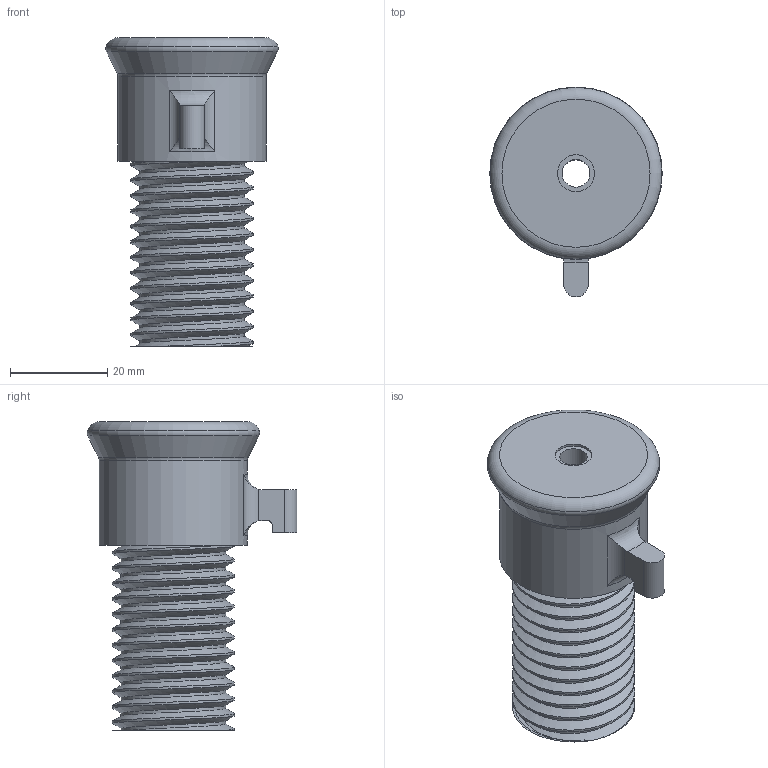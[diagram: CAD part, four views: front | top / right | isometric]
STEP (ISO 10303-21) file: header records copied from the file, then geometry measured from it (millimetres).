
FILE_DESCRIPTION(/* description */ (''),/* implementation_level */ '2;1');
FILE_NAME(/* name */ 'C:/Users/Owner/Desktop/liberator suppressed/STEP Files/22 Caliber versions/22 Cal Threaded Liberator barrel.step',/* time_stamp */ '2020-04-23T21:32:38-04:00',/* author */ (''),/* organization */ (''),/* preprocessor_version */ 'ST-DEVELOPER v18.1',/* originating_system */ 'Autodesk Translation Framework v9.2.0.1227',/* authorisation */ '');
FILE_SCHEMA (('AUTOMOTIVE_DESIGN { 1 0 10303 214 3 1 1 }'));
Length unit declared in the file: inch
Products named in the file (1): 22 Threaded barrel
Bounding box: 35.48 x 43.14 x 63.5 mm (x, y, z)
Volume: 34690.5 mm3; surface area: 10235.4 mm2
Topology: 1 solids, 1 shells, 56 faces, 151 edges, 100 vertices
Faces by surface type: cylinder 34, plane 10, torus 9, bspline 2, cone 1
Full cylindrical faces by diameter (mm): 5.715 x1, 7.62 x1, 21.57 x11, 25.159 x11, 30.48 x1
Entity records: 4651 total; most frequent: CARTESIAN_POINT 3278, ORIENTED_EDGE 302, DIRECTION 245, EDGE_CURVE 151, AXIS2_PLACEMENT_3D 101, VERTEX_POINT 100, B_SPLINE_CURVE_WITH_KNOTS 62, EDGE_LOOP 61
